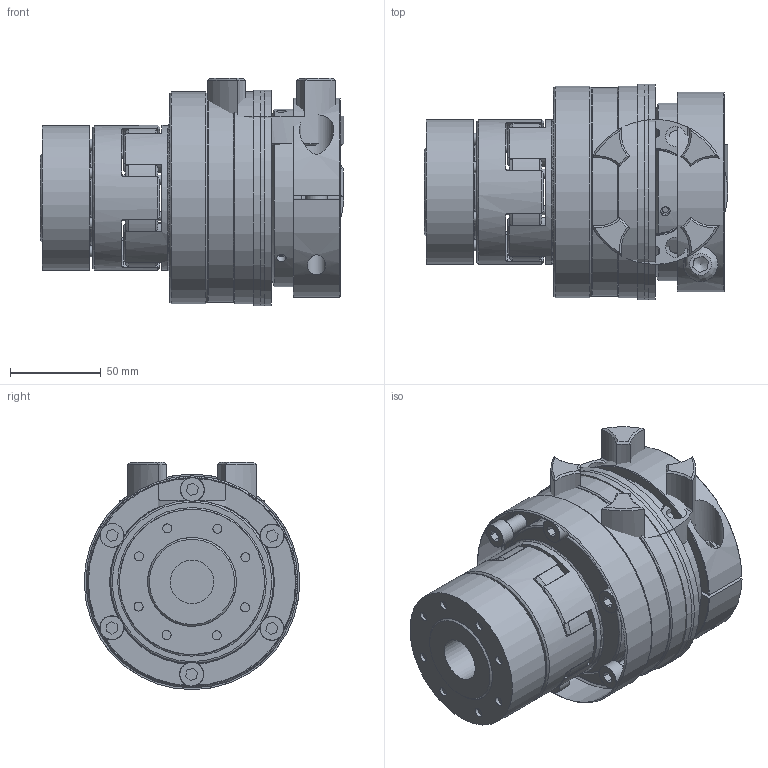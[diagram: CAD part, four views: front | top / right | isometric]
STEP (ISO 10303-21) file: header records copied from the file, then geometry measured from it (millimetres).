
FILE_DESCRIPTION( ( 'Unknown' ), '1' );
FILE_NAME( 'C:/Dokumente und Einstellungen/Sven/Desktop/hp kbk/E-AK/KBK EAK-38-162.stp', 'Unknown', ( 'Unknown' ), ( 'Unknown' ), 'XStep 1.0', 'Unknown', ' ' );
FILE_SCHEMA( ( 'automotive_design' ) );
Length unit declared in the file: millimetre
Products named in the file (19): Assem1; Assem2; Assem3; Zylinderschraube DIN 912_7; ball_bearing_-_6011_0_01_0; ball_bearing_-_6011_0_02_0; ball_bearing_-_6011_0_03_0; Stellring 300_0; Druckring 300_0; Flansch 300_0; a_55_0; Elastomerflansch 38_0; Zahnkranz_38_Standard_0; KBE 3 - 38_Nabe; KBE3-38_Druckring_0; ISO EN DIN 4762 M6x35; Kupplung L-K-300 Grundkörper_0; Klemmnabe 300_0; schraube_iso_7380-m12x30-12_9_0
Bounding box: 167.55 x 119 x 125.5 mm (x, y, z)
Volume: 2175577.8 mm3; surface area: 580375.2 mm2
Topology: 48 solids, 48 shells, 1138 faces, 2472 edges, 1550 vertices
Faces by surface type: cylinder 392, plane 378, cone 295, torus 71, bspline 2
Full cylindrical faces by diameter (mm): 2.5 x4, 3.242 x6, 5 x49, 5.2 x6, 6 x18, 6.5 x16, 6.647 x12, 8 x8, 8.2 x12, 10 x9, 10.106 x2, 11 x16, 12 x2, 12.5 x2, 13 x8, 13.2 x12, 19 x2, 20 x2, 24 x2, 38 x4, 40 x2, 46 x2, 52 x2, 53 x2, 55 x7, 60 x2, 66.3 x6, 70 x2, 76 x4, 79.1 x6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
Entity records: 12461 total; most frequent: CARTESIAN_POINT 2895, DIRECTION 2064, ORIENTED_EDGE 1546, AXIS2_PLACEMENT_3D 967, EDGE_CURVE 773, EDGE_LOOP 714, VERTEX_POINT 568, FACE_OUTER_BOUND 555
